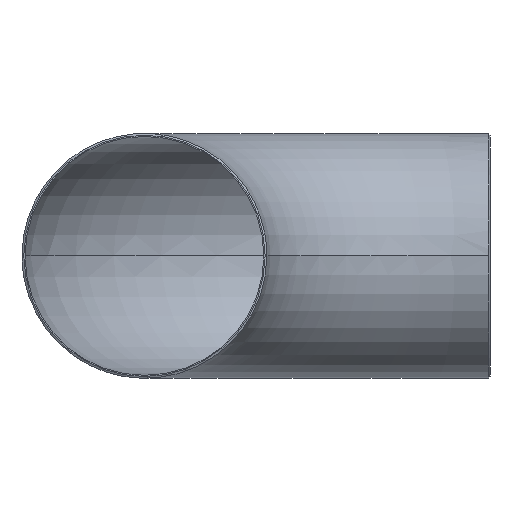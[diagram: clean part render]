
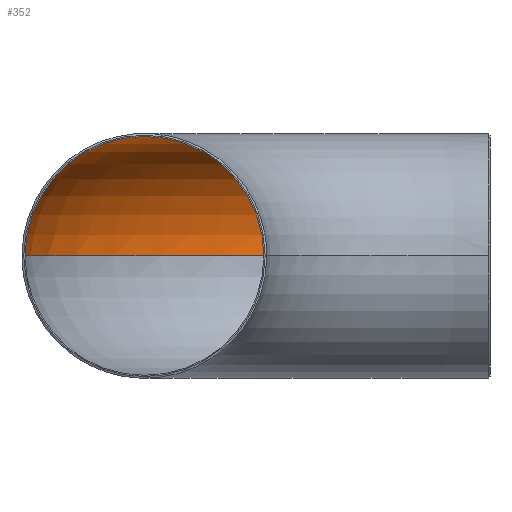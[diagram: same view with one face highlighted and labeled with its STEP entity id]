
A CAD part, front view. The second image highlights one B-rep face of the part: STEP entity #352.
In plain terms, the highlighted toroidal (fillet/blend) face has major radius 457 mm and minor radius 157.95 mm.
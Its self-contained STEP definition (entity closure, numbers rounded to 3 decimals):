
#7 = CARTESIAN_POINT ( 'NONE',  ( 457., 0., 0. ) ) ;
#10 = CARTESIAN_POINT ( 'NONE',  ( 457., 0., 0. ) ) ;
#39 = AXIS2_PLACEMENT_3D ( 'NONE', #143, #353, #48 ) ;
#41 = ORIENTED_EDGE ( 'NONE', *, *, #59, .T. ) ;
#48 = DIRECTION ( 'NONE',  ( 0., 1., 0. ) ) ;
#54 = DIRECTION ( 'NONE',  ( 0., 0., 1. ) ) ;
#59 = EDGE_CURVE ( 'NONE', #349, #585, #357, .T. ) ;
#86 = CARTESIAN_POINT ( 'NONE',  ( 457., 614.95, 0. ) ) ;
#88 = DIRECTION ( 'NONE',  ( 0., 0., 1. ) ) ;
#91 = ORIENTED_EDGE ( 'NONE', *, *, #335, .T. ) ;
#121 = VERTEX_POINT ( 'NONE', #86 ) ;
#129 = CIRCLE ( 'NONE', #194, 614.95 ) ;
#132 = CARTESIAN_POINT ( 'NONE',  ( 0., 0., 0. ) ) ;
#143 = CARTESIAN_POINT ( 'NONE',  ( 457., 457., 0. ) ) ;
#152 = DIRECTION ( 'NONE',  ( 1., 0., 0. ) ) ;
#155 = DIRECTION ( 'NONE',  ( 0., 0., 1. ) ) ;
#167 = AXIS2_PLACEMENT_3D ( 'NONE', #132, #537, #88 ) ;
#194 = AXIS2_PLACEMENT_3D ( 'NONE', #10, #54, #152 ) ;
#239 = TOROIDAL_SURFACE ( 'NONE', #297, 457., 157.95 ) ;
#251 = CIRCLE ( 'NONE', #39, 157.95 ) ;
#264 = CIRCLE ( 'NONE', #167, 157.95 ) ;
#266 = ORIENTED_EDGE ( 'NONE', *, *, #287, .F. ) ;
#273 = AXIS2_PLACEMENT_3D ( 'NONE', #7, #155, #406 ) ;
#276 = EDGE_LOOP ( 'NONE', ( #573, #91, #41, #266 ) ) ;
#287 = EDGE_CURVE ( 'NONE', #606, #585, #264, .T. ) ;
#297 = AXIS2_PLACEMENT_3D ( 'NONE', #345, #447, #403 ) ;
#335 = EDGE_CURVE ( 'NONE', #121, #349, #251, .T. ) ;
#345 = CARTESIAN_POINT ( 'NONE',  ( 457., 0., 0. ) ) ;
#349 = VERTEX_POINT ( 'NONE', #402 ) ;
#352 = ADVANCED_FACE ( 'NONE', ( #555 ), #239, .F. ) ;
#353 = DIRECTION ( 'NONE',  ( 1., 0., 0. ) ) ;
#357 = CIRCLE ( 'NONE', #273, 299.05 ) ;
#402 = CARTESIAN_POINT ( 'NONE',  ( 457., 299.05, 0. ) ) ;
#403 = DIRECTION ( 'NONE',  ( 1., 0., 0. ) ) ;
#406 = DIRECTION ( 'NONE',  ( 1., 0., 0. ) ) ;
#435 = EDGE_CURVE ( 'NONE', #121, #606, #129, .T. ) ;
#447 = DIRECTION ( 'NONE',  ( 0., 0., 1. ) ) ;
#484 = CARTESIAN_POINT ( 'NONE',  ( 157.95, 0., 0. ) ) ;
#537 = DIRECTION ( 'NONE',  ( 0., 1., 0. ) ) ;
#555 = FACE_OUTER_BOUND ( 'NONE', #276, .T. ) ;
#573 = ORIENTED_EDGE ( 'NONE', *, *, #435, .F. ) ;
#579 = CARTESIAN_POINT ( 'NONE',  ( -157.95, 0., 0. ) ) ;
#585 = VERTEX_POINT ( 'NONE', #484 ) ;
#606 = VERTEX_POINT ( 'NONE', #579 ) ;
